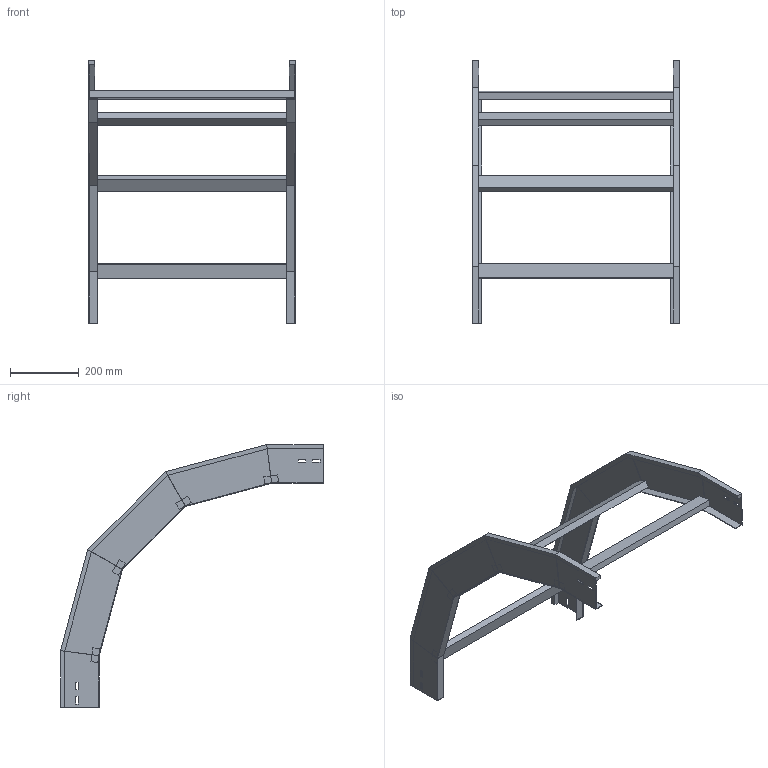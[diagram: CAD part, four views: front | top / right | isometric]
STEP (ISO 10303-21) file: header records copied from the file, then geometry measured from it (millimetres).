
FILE_DESCRIPTION (( 'STEP AP214' ), '1' );
FILE_NAME ('33B5J600.step', '2025-02-21T15:03:10', ( '' ), ( '' ), 'SwSTEP 2.0', 'SolidWorks 2023', '' );
FILE_SCHEMA (( 'AUTOMOTIVE_DESIGN' ));
Length unit declared in the file: millimetre
Products named in the file (3): 33B5J600; LONGH.DISCESA_90°_H112.5_R500; TRAVERSINO_600
Assembly tree (6 placements, depth 2):
  33B5J600
    LONGH.DISCESA_90°_H112.5_R500  x2
    TRAVERSINO_600  x4
Bounding box: 600 x 762.85 x 762.85 mm (x, y, z)
Volume: 3040482 mm3; surface area: 1017403.5 mm2
Topology: 6 solids, 6 shells, 140 faces, 320 edges, 192 vertices
Faces by surface type: plane 140
Entity records: 1872 total; most frequent: CARTESIAN_POINT 309, ORIENTED_EDGE 296, DIRECTION 294, VECTOR 148, LINE 148, EDGE_CURVE 148, VERTEX_POINT 88, AXIS2_PLACEMENT_3D 73
